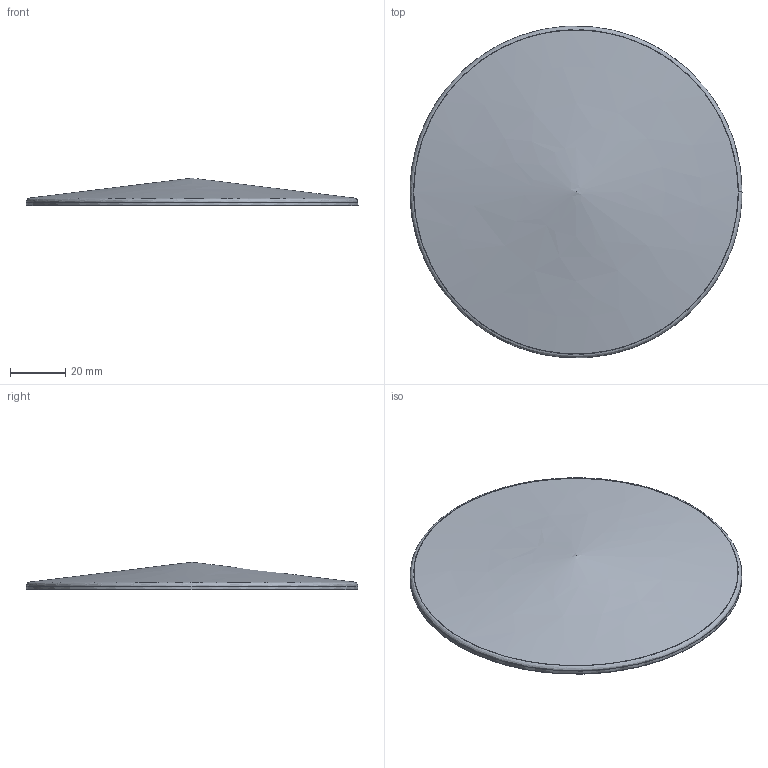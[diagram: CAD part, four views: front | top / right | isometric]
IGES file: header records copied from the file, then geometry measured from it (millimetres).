
Start section: C
Global section: file name: 0051-120.igs; native system: By Siemens PLM Incorporated; preprocessor: XPlus GENERIC/IGES 16.0.42; author: Author; organization: Title; date: 20260104.161108; units: millimetre
Bounding box: 120.3 x 120.12 x 10 mm (x, y, z)
Surface area: 25193.2 mm2 (no closed solid volume)
Topology: 0 solids, 0 shells, 20 faces, 91 edges, 90 vertices
Faces by surface type: bspline 20
